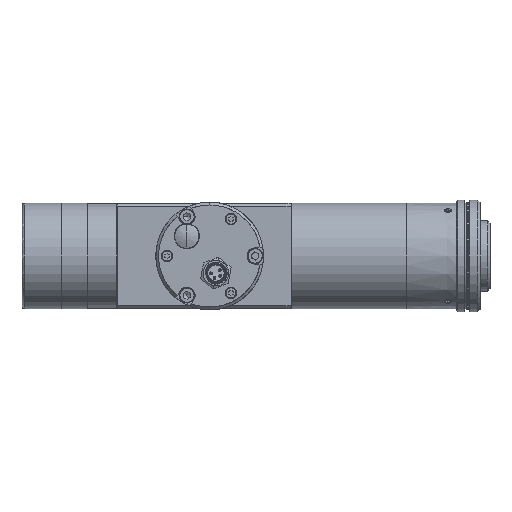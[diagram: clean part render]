
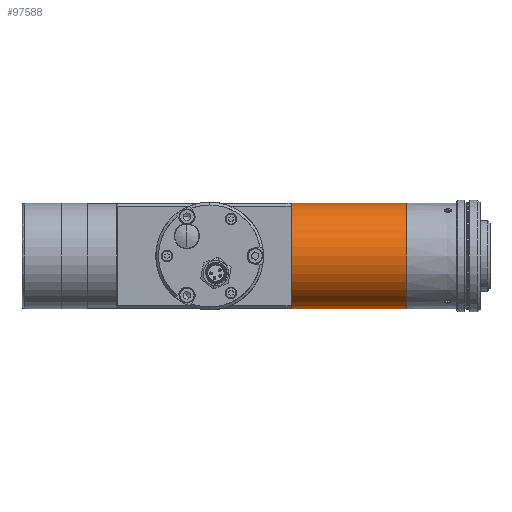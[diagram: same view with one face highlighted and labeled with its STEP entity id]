
A CAD part, front view. The second image highlights one B-rep face of the part: STEP entity #97588.
In plain terms, the highlighted face is a revolution surface.
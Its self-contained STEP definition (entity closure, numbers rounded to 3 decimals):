
#97588 = ADVANCED_FACE('',(#97589),#97604,.T.);
#97589 = FACE_BOUND('',#97590,.T.);
#97590 = EDGE_LOOP('',(#97591,#97617,#97632,#97648));
#97591 = ORIENTED_EDGE('',*,*,#97592,.F.);
#97592 = EDGE_CURVE('',#97593,#97595,#97597,.T.);
#97593 = VERTEX_POINT('',#97594);
#97594 = CARTESIAN_POINT('',(228.54,0.,18.85));
#97595 = VERTEX_POINT('',#97596);
#97596 = CARTESIAN_POINT('',(228.54,0.,-18.85));
#97597 = SURFACE_CURVE('',#97598,(#97603),.PCURVE_S1.);
#97598 = CIRCLE('',#97599,18.85);
#97599 = AXIS2_PLACEMENT_3D('',#97600,#97601,#97602);
#97600 = CARTESIAN_POINT('',(228.54,0.,0.));
#97601 = DIRECTION('',(1.,0.,0.));
#97602 = DIRECTION('',(0.,0.,1.));
#97603 = PCURVE('',#97604,#97612);
#97604 = SURFACE_OF_REVOLUTION('',#97605,#97609);
#97605 = LINE('',#97606,#97607);
#97606 = CARTESIAN_POINT('',(269.89,0.,18.85));
#97607 = VECTOR('',#97608,1.);
#97608 = DIRECTION('',(-1.,0.,0.));
#97609 = AXIS1_PLACEMENT('',#97610,#97611);
#97610 = CARTESIAN_POINT('',(6.83,0.,0.));
#97611 = DIRECTION('',(1.,0.,0.));
#97612 = DEFINITIONAL_REPRESENTATION('',(#97613),#97616);
#97613 = B_SPLINE_CURVE_WITH_KNOTS('',1,(#97614,#97615),.UNSPECIFIED.,
  .F.,.F.,(2,2),(0.,3.142),
  .PIECEWISE_BEZIER_KNOTS.);
#97614 = CARTESIAN_POINT('',(0.,41.35));
#97615 = CARTESIAN_POINT('',(3.142,41.35));
#97616 = ( GEOMETRIC_REPRESENTATION_CONTEXT(2) 
PARAMETRIC_REPRESENTATION_CONTEXT() REPRESENTATION_CONTEXT('',''
  ) );
#97617 = ORIENTED_EDGE('',*,*,#97618,.F.);
#97618 = EDGE_CURVE('',#97619,#97593,#97621,.T.);
#97619 = VERTEX_POINT('',#97620);
#97620 = CARTESIAN_POINT('',(269.89,0.,18.85));
#97621 = SURFACE_CURVE('',#97622,(#97626),.PCURVE_S1.);
#97622 = LINE('',#97623,#97624);
#97623 = CARTESIAN_POINT('',(269.89,0.,18.85));
#97624 = VECTOR('',#97625,1.);
#97625 = DIRECTION('',(-1.,0.,0.));
#97626 = PCURVE('',#97604,#97627);
#97627 = DEFINITIONAL_REPRESENTATION('',(#97628),#97631);
#97628 = B_SPLINE_CURVE_WITH_KNOTS('',1,(#97629,#97630),.UNSPECIFIED.,
  .F.,.F.,(2,2),(0.,41.35),.PIECEWISE_BEZIER_KNOTS.);
#97629 = CARTESIAN_POINT('',(0.,0.));
#97630 = CARTESIAN_POINT('',(0.,41.35));
#97631 = ( GEOMETRIC_REPRESENTATION_CONTEXT(2) 
PARAMETRIC_REPRESENTATION_CONTEXT() REPRESENTATION_CONTEXT('',''
  ) );
#97632 = ORIENTED_EDGE('',*,*,#97633,.F.);
#97633 = EDGE_CURVE('',#97634,#97619,#97636,.T.);
#97634 = VERTEX_POINT('',#97635);
#97635 = CARTESIAN_POINT('',(269.89,0.,-18.85));
#97636 = SURFACE_CURVE('',#97637,(#97642),.PCURVE_S1.);
#97637 = CIRCLE('',#97638,18.85);
#97638 = AXIS2_PLACEMENT_3D('',#97639,#97640,#97641);
#97639 = CARTESIAN_POINT('',(269.89,0.,0.));
#97640 = DIRECTION('',(-1.,0.,0.));
#97641 = DIRECTION('',(0.,0.,-1.));
#97642 = PCURVE('',#97604,#97643);
#97643 = DEFINITIONAL_REPRESENTATION('',(#97644),#97647);
#97644 = B_SPLINE_CURVE_WITH_KNOTS('',1,(#97645,#97646),.UNSPECIFIED.,
  .F.,.F.,(2,2),(0.,3.142),.PIECEWISE_BEZIER_KNOTS.);
#97645 = CARTESIAN_POINT('',(3.142,0.));
#97646 = CARTESIAN_POINT('',(0.,0.));
#97647 = ( GEOMETRIC_REPRESENTATION_CONTEXT(2) 
PARAMETRIC_REPRESENTATION_CONTEXT() REPRESENTATION_CONTEXT('',''
  ) );
#97648 = ORIENTED_EDGE('',*,*,#97649,.F.);
#97649 = EDGE_CURVE('',#97595,#97634,#97650,.T.);
#97650 = SURFACE_CURVE('',#97651,(#97655),.PCURVE_S1.);
#97651 = LINE('',#97652,#97653);
#97652 = CARTESIAN_POINT('',(228.54,0.,-18.85));
#97653 = VECTOR('',#97654,1.);
#97654 = DIRECTION('',(1.,0.,0.));
#97655 = PCURVE('',#97604,#97656);
#97656 = DEFINITIONAL_REPRESENTATION('',(#97657),#97660);
#97657 = B_SPLINE_CURVE_WITH_KNOTS('',1,(#97658,#97659),.UNSPECIFIED.,
  .F.,.F.,(2,2),(0.,41.35),.PIECEWISE_BEZIER_KNOTS.);
#97658 = CARTESIAN_POINT('',(3.142,41.35));
#97659 = CARTESIAN_POINT('',(3.142,0.));
#97660 = ( GEOMETRIC_REPRESENTATION_CONTEXT(2) 
PARAMETRIC_REPRESENTATION_CONTEXT() REPRESENTATION_CONTEXT('',''
  ) );
